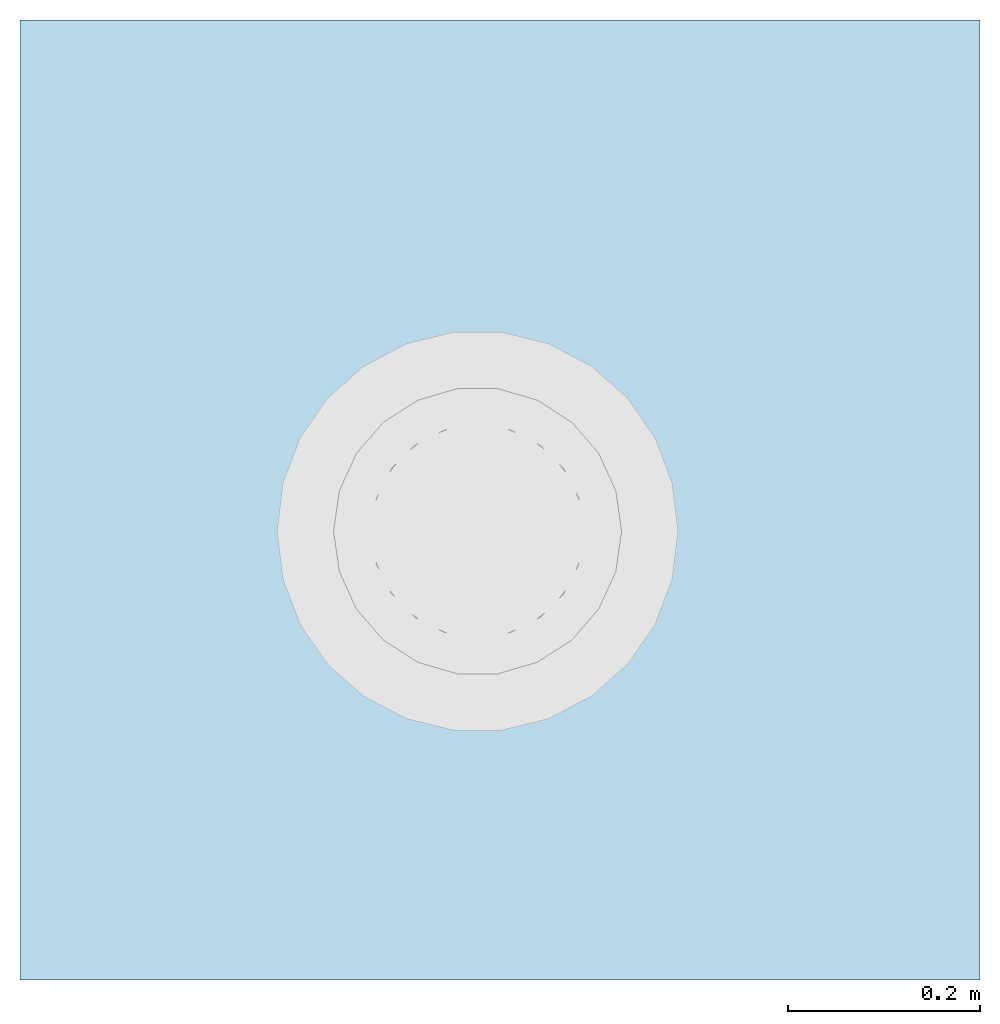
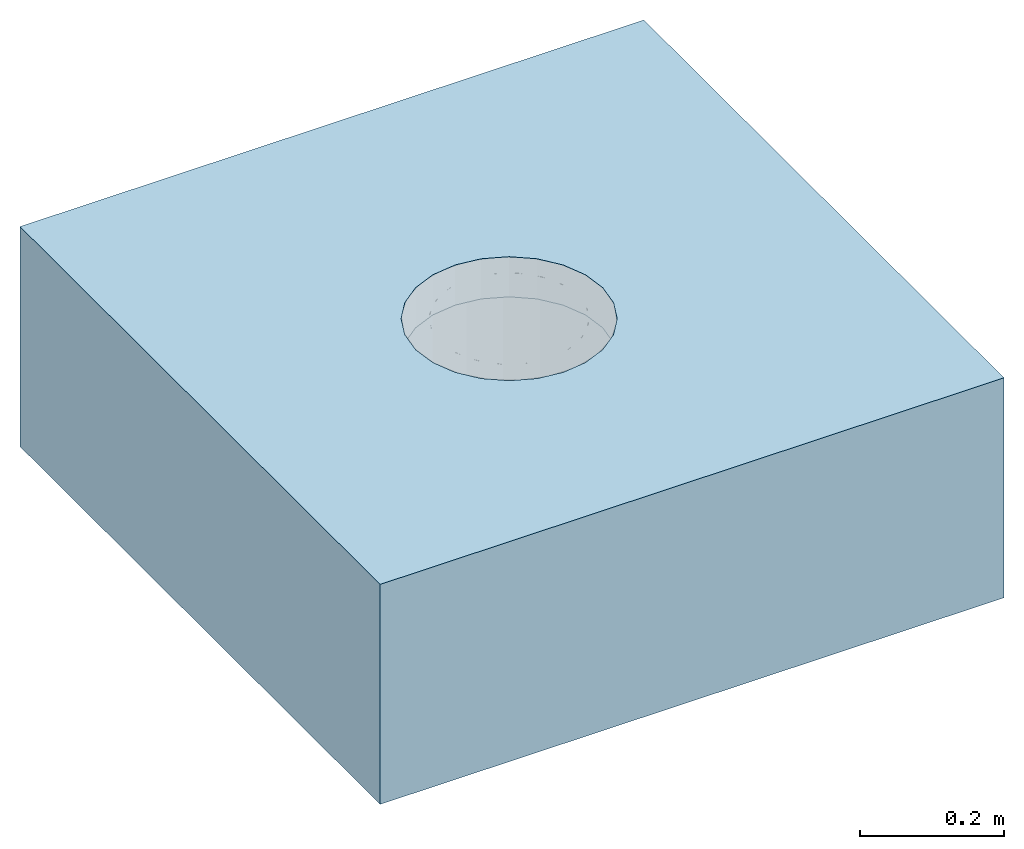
# One storey, incomplete: 1 slab, 1 opening.
"""IFC2X3 building model written with IfcOpenShell, lengths in millimetres."""

import ifcopenshell
import ifcopenshell.guid

model = None  # the IFC model being written
_history = None  # IfcOwnerHistory: only IFC2X3 demands one
_inside = {}  # id of a spatial element -> (the spatial element, [elements in it])
_under = {}  # id of a project, library or spatial element -> (it, [spatial elements below it])
_declared = {}  # id of a project -> (the project, [libraries it declares])
_typed = {}  # id of a type object -> (the type object, [elements of that type])
_made_of = {}  # id of a material, layer set ... -> (it, [elements and type objects made of it])


def new_model(schema):
    """Start an empty IFC model of exactly this schema.

    Asked for "IFC4X3", IfcOpenShell would pick the latest addendum, in which some entities
    have other attributes; the version numbers below select the first issue.
    IFC2X3 requires an IfcOwnerHistory on every rooted entity: one is made here for all.
    """
    global model, _history
    if schema == "IFC4X3":
        model = ifcopenshell.file(schema_version=(4, 3, 0, 0))
    else:
        model = ifcopenshell.file(schema=schema)
    _inside.clear()
    _under.clear()
    _declared.clear()
    _typed.clear()
    _made_of.clear()
    _history = None
    if model.schema == "IFC2X3":
        org = make("IfcOrganization", Name="unknown")
        user = make(
            "IfcPersonAndOrganization",
            ThePerson=make("IfcPerson", FamilyName="unknown"),
            TheOrganization=org,
        )
        app = make(
            "IfcApplication",
            ApplicationDeveloper=org,
            Version="unknown",
            ApplicationFullName="unknown",
            ApplicationIdentifier="unknown",
        )
        _history = make(
            "IfcOwnerHistory",
            OwningUser=user,
            OwningApplication=app,
            ChangeAction="ADDED",
            CreationDate=0,
        )
    return model


def make(cls, **values):
    """One entity of the class cls with the attributes given. An attribute that is None is left unset."""
    return model.create_entity(
        cls, **{name: value for name, value in values.items() if value is not None}
    )


def entity(cls, *values):
    """Any entity or typed value of the class cls, its attributes in the order of the schema. None: left unset."""
    e = model.create_entity(cls)
    for i, value in enumerate(values):
        if value is not None:
            e[i] = value
    return e


def rooted(cls, **values):
    """An entity with a GlobalId (a new one), such as an element, a storey or a relation."""
    return make(cls, GlobalId=ifcopenshell.guid.new(), OwnerHistory=_history, **values)


def si_unit(unit_type, name, prefix=None):
    """IfcSIUnit, for example si_unit("LENGTHUNIT", "METRE", prefix="MILLI")."""
    return make("IfcSIUnit", UnitType=unit_type, Prefix=prefix, Name=name)


def converted_unit(unit_type, name, factor, base, dimensions=None, offset=None):
    """IfcConversionBasedUnit, such as the inch: factor (a typed value) times the base unit."""
    return make(
        "IfcConversionBasedUnit"
        if offset is None
        else "IfcConversionBasedUnitWithOffset",
        ConversionOffset=offset,
        Dimensions=None
        if dimensions is None
        else entity("IfcDimensionalExponents", *dimensions),
        UnitType=unit_type,
        Name=name,
        ConversionFactor=make(
            "IfcMeasureWithUnit", ValueComponent=factor, UnitComponent=base
        ),
    )


def derived_unit(unit_type, elements):
    """IfcDerivedUnit: a product of units, each with its exponent."""
    return make(
        "IfcDerivedUnit",
        Elements=[
            make("IfcDerivedUnitElement", Unit=unit, Exponent=power)
            for unit, power in elements
        ],
        UnitType=unit_type,
    )


def assignment(units):
    """IfcUnitAssignment: the units of a project."""
    return None if units is None else make("IfcUnitAssignment", Units=units)


def point(xyz):
    """IfcCartesianPoint."""
    return None if xyz is None else make("IfcCartesianPoint", Coordinates=xyz)


def direction(xyz):
    """IfcDirection."""
    return None if xyz is None else make("IfcDirection", DirectionRatios=xyz)


def frame(location, z_axis=None, x_axis=None):
    """IfcAxis2Placement3D, a coordinate frame: its origin and axes. An axis left out is left unset."""
    return make(
        "IfcAxis2Placement3D",
        Location=point(location),
        Axis=direction(z_axis),
        RefDirection=direction(x_axis),
    )


def frame_2d(location, x_axis=None):
    """IfcAxis2Placement2D, a coordinate frame in the plane: its origin and x axis."""
    return make(
        "IfcAxis2Placement2D", Location=point(location), RefDirection=direction(x_axis)
    )


def origin():
    """The frame at (0, 0, 0) with its axes left unset."""
    return frame((0.0, 0.0, 0.0))


def place(relative_to, where):
    """IfcLocalPlacement: puts the frame where relative to a parent placement (None: the world)."""
    return make(
        "IfcLocalPlacement", PlacementRelTo=relative_to, RelativePlacement=where
    )


def context(
    kind, dimensions, precision=None, world=None, true_north=None, identifier=None
):
    """IfcGeometricRepresentationContext, for example the 3D "Model" context."""
    return make(
        "IfcGeometricRepresentationContext",
        ContextIdentifier=identifier,
        ContextType=kind,
        CoordinateSpaceDimension=dimensions,
        Precision=precision,
        WorldCoordinateSystem=world,
        TrueNorth=true_north,
    )


def subcontext(parent, identifier, kind, view, scale=None):
    """IfcGeometricRepresentationSubContext, for example "Body" below "Model"."""
    return make(
        "IfcGeometricRepresentationSubContext",
        ContextIdentifier=identifier,
        ContextType=kind,
        ParentContext=parent,
        TargetScale=scale,
        TargetView=view,
    )


def project(units=None, contexts=None):
    """IfcProject with its units and contexts."""
    return rooted(
        "IfcProject",
        Name="project",
        RepresentationContexts=contexts,
        UnitsInContext=assignment(units),
    )


def spatial(cls, under=None, at=None, **own):
    """A site, building, storey or space (cls), placed at a placement, below another one or the project."""
    s = rooted(cls, ObjectPlacement=at, **own)
    if under is not None:
        _under.setdefault(under.id(), (under, []))[1].append(s)
    return s


def profile(cls, at=None, kind="AREA", **sizes):
    """A parametric profile (cls). Its sizes go by their IFC names, for example OverallWidth=200.0."""
    return make(cls, ProfileType=kind, Position=at, **sizes)


def rectangle(**sizes):
    """IfcRectangleProfileDef."""
    return profile("IfcRectangleProfileDef", **sizes)


def extrude(swept, where, along, depth):
    """IfcExtrudedAreaSolid: the profile swept, set in the frame where, extruded along a direction by depth."""
    return make(
        "IfcExtrudedAreaSolid",
        SweptArea=swept,
        Position=where,
        ExtrudedDirection=direction(along),
        Depth=depth,
    )


def faces_of(points, faces, orient=None, outer=None):
    """IfcFace entities. A face is a list of loops; a loop is a list of indices into points, from 0.

    orient and outer hold one flag for each loop. By default every Orientation is true, the
    first loop of a face is its IfcFaceOuterBound and the others are IfcFaceBound.
    """
    made = []
    for i, loops in enumerate(faces):
        bounds = []
        for j, loop in enumerate(loops):
            is_outer = j == 0 if outer is None else outer[i][j]
            bounds.append(
                make(
                    "IfcFaceOuterBound" if is_outer else "IfcFaceBound",
                    Bound=make("IfcPolyLoop", Polygon=[points[k] for k in loop]),
                    Orientation=True if orient is None else orient[i][j],
                )
            )
        made.append(make("IfcFace", Bounds=bounds))
    return made


def faceted_brep(points, faces, orient=None, outer=None, voids=None):
    """IfcFacetedBrep: a solid bounded by flat faces; with voids (closed shells), ...WithVoids."""
    shared = [point(p) for p in points]
    hull = make("IfcClosedShell", CfsFaces=faces_of(shared, faces, orient, outer))
    if voids is None:
        return make("IfcFacetedBrep", Outer=hull)
    return make(
        "IfcFacetedBrepWithVoids",
        Outer=hull,
        Voids=[
            make(cls, CfsFaces=faces_of(shared, fs, o, b)) for cls, fs, o, b in voids
        ],
    )


def shape(context_of_items, identifier, shape_type, items):
    """IfcShapeRepresentation: the items that make up one representation, for example the "Body"."""
    return make(
        "IfcShapeRepresentation",
        ContextOfItems=context_of_items,
        RepresentationIdentifier=identifier,
        RepresentationType=shape_type,
        Items=items,
    )


def material(Name=None, Category=None):
    """IfcMaterial."""
    return make("IfcMaterial", Name=Name, Category=Category)


def layer(
    of_material, thickness, ventilated=None, Name=None, Category=None, Priority=None
):
    """IfcMaterialLayer: one layer of a wall or slab, of a material (None: an air gap)."""
    return make(
        "IfcMaterialLayer",
        Material=of_material,
        LayerThickness=thickness,
        IsVentilated=ventilated,
        Name=Name,
        Category=Category,
        Priority=Priority,
    )


def layer_set(layers, Name=None):
    """IfcMaterialLayerSet."""
    return make("IfcMaterialLayerSet", MaterialLayers=layers, LayerSetName=Name)


def layer_usage(for_layer_set, set_direction, sense, offset, extent=None):
    """IfcMaterialLayerSetUsage: how a layer set lies in its element."""
    return make(
        "IfcMaterialLayerSetUsage",
        ForLayerSet=for_layer_set,
        LayerSetDirection=set_direction,
        DirectionSense=sense,
        OffsetFromReferenceLine=offset,
        ReferenceExtent=extent,
    )


def made_of(thing, what):
    """Note that an element or type object is made of a material, layer set ...; save() writes the relation."""
    if what is not None:
        _made_of.setdefault(what.id(), (what, []))[1].append(thing)
    return thing


def element(
    cls,
    number,
    at=None,
    inside=None,
    cuts=None,
    type_object=None,
    material=None,
    context=None,
    identifier="Body",
    shape_type=None,
    held_by="IfcProductDefinitionShape",
    body=None,
    shapes=None,
    **own,
):
    """One element of the class cls, such as IfcWall. Its Tag is "e" and its number.

    at: its placement. inside: the storey or other place that contains it. cuts: it is an
    opening in that element (IfcRelVoidsElement). A single representation is given by context,
    identifier, shape_type and body (its items); several are given by shapes. held_by: the class
    of the entity that holds the representations. save() writes the other relations.
    """
    e = rooted(cls, Tag="e%d" % number, ObjectPlacement=at, **own)
    if body is not None:
        shapes = [shape(context, identifier, shape_type, body)]
    if shapes is not None:
        e.Representation = make(held_by, Representations=shapes)
    if inside is not None:
        _inside.setdefault(inside.id(), (inside, []))[1].append(e)
    if cuts is not None:
        rooted(
            "IfcRelVoidsElement", RelatingBuildingElement=cuts, RelatedOpeningElement=e
        )
    if type_object is not None:
        _typed.setdefault(type_object.id(), (type_object, []))[1].append(e)
    return made_of(e, material)


def aggregate(whole, parts):
    """IfcRelAggregates: a whole, such as a stair, and the parts it consists of."""
    return rooted("IfcRelAggregates", RelatingObject=whole, RelatedObjects=parts)


def save(model, path):
    """Write the relations noted so far, then the file.

    IfcRelAggregates (storeys below a building ...), IfcRelContainedInSpatialStructure (elements
    in a storey), IfcRelDefinesByType, IfcRelAssociatesMaterial and IfcRelDeclares: one each for
    every whole, place, type object, material and project.
    """
    for whole, parts in _under.values():
        aggregate(whole, parts)
    for where, things in _inside.values():
        rooted(
            "IfcRelContainedInSpatialStructure",
            RelatedElements=things,
            RelatingStructure=where,
        )
    for kind, things in _typed.values():
        rooted("IfcRelDefinesByType", RelatedObjects=things, RelatingType=kind)
    for what, things in _made_of.values():
        rooted("IfcRelAssociatesMaterial", RelatedObjects=things, RelatingMaterial=what)
    for by, libraries in _declared.values():
        rooted("IfcRelDeclares", RelatingContext=by, RelatedDefinitions=libraries)
    model.write(path)


model = new_model("IFC2X3")

# Units and contexts
model_context = context("Model", 3, precision=1e-05, world=origin(), true_north=direction((2.0, 6.12303176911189e-17, 1.0)))
context_of_model = context(None, 3, precision=1e-05, world=origin(), true_north=direction((2.0, 6.12303176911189e-17, 1.0)))
body_context = subcontext(model_context, "Body", "Model", "MODEL_VIEW")
ifc_project = project(units=[si_unit("LENGTHUNIT", "METRE", prefix="MILLI"), converted_unit("AREAUNIT", "SQUARE FOOT", entity("IfcRatioMeasure", 0.09290304), si_unit("AREAUNIT", "SQUARE_METRE"), dimensions=[2, 0, 0, 0, 0, 0, 0]), converted_unit("VOLUMEUNIT", "CUBIC FOOT", entity("IfcRatioMeasure", 0.028316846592), si_unit("VOLUMEUNIT", "CUBIC_METRE"), dimensions=[3, 0, 0, 0, 0, 0, 0]), converted_unit("PLANEANGLEUNIT", "DEGREE", entity("IfcRatioMeasure", 0.0174532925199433), si_unit("PLANEANGLEUNIT", "RADIAN"), dimensions=[0, 0, 0, 0, 0, 0, 0]), si_unit("MASSUNIT", "GRAM", prefix="KILO"), si_unit("TIMEUNIT", "SECOND"), si_unit("THERMODYNAMICTEMPERATUREUNIT", "KELVIN"), derived_unit("THERMALTRANSMITTANCEUNIT", [(si_unit("MASSUNIT", "GRAM", prefix="KILO"), 1), (si_unit("THERMODYNAMICTEMPERATUREUNIT", "KELVIN"), -1), (si_unit("TIMEUNIT", "SECOND"), -3)]), derived_unit("VOLUMETRICFLOWRATEUNIT", [(si_unit("LENGTHUNIT", "METRE"), 3), (si_unit("TIMEUNIT", "SECOND"), -1)]), si_unit("POWERUNIT", "WATT")], contexts=[model_context, context_of_model])

# Site, building, storey
site_placement = place(None, origin())
site = spatial("IfcSite", under=ifc_project, at=site_placement, Name="Default", CompositionType="ELEMENT")
building_placement = place(site_placement, origin())
building = spatial("IfcBuilding", under=site, at=building_placement, CompositionType="ELEMENT")
storey_placement = place(building_placement, origin())
storey = spatial("IfcBuildingStorey", under=building, at=storey_placement, Name="Level 1", CompositionType="ELEMENT", Elevation=0.0)

# Slab, opening
ifc_material_1 = material(Name="Plywood, Sheathing")
ifc_layer_1 = layer(ifc_material_1, 68.0)
ifc_material_2 = material(Name="Default Floor")
ifc_layer_2 = layer(ifc_material_2, 304.8)
ifc_layer_set = layer_set([ifc_layer_1, ifc_layer_2], Name="Floor:Generic - 12\"")
ifc_layer_usage = layer_usage(ifc_layer_set, "AXIS3", "POSITIVE", 0.0)
slab_placement = place(storey_placement, frame((-10598.0627721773, 2392.60708548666, -372.8)))
slab = element("IfcSlab", 1, at=slab_placement, inside=storey, material=ifc_layer_usage, Name="Floor:Generic - 12\"", ObjectType="Floor:Generic - 12\"", PredefinedType="FLOOR", context=body_context, shape_type="SweptSolid", body=[
    extrude(rectangle(XDim=1000.0, YDim=1000.0, at=frame_2d((0.0, 0.0), x_axis=(0.0, -1.0))), frame((500.0, 500.0, 372.8), z_axis=(0.0, 0.0, -1.0), x_axis=(-1.0, 0.0, 0.0)), (0.0, 0.0, 1.0), 372.8),
])
opening_placement = place(slab_placement, frame((264.098251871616, 253.374336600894, 36.7999999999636)))
element("IfcOpeningElement", 2, at=opening_placement, cuts=slab, ObjectType="Recess", context=body_context, shape_type="Brep", body=[
    faceted_brep([(357.432614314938, 175.272996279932, 336.0), (212.545907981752, 64.097516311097, 336.0), (251.368183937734, 69.2085659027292, 336.0), (318.610338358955, 108.030841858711, 336.0), (287.544785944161, 84.1934050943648, 336.0), (342.447775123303, 139.096394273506, 336.0), (106.481477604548, 108.030841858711, 336.0), (357.432614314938, 252.917548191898, 336.0), (137.547030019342, 84.1934050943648, 336.0), (173.723632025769, 69.2085659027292, 336.0), (82.6440408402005, 139.096394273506, 336.0), (62.5481520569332, 214.095272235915, 336.0), (67.6592016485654, 175.272996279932, 336.0), (67.6592016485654, 252.917548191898, 336.0), (318.610338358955, 320.159702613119, 336.0), (342.447775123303, 289.094150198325, 336.0), (287.544785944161, 343.997139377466, 336.0), (251.368183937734, 358.981978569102, 336.0), (137.547030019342, 343.997139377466, 336.0), (106.481477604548, 320.159702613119, 336.0), (82.6440408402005, 289.094150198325, 336.0), (212.545907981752, 364.093028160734, 336.0), (173.723632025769, 358.981978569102, 336.0), (362.54366390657, 214.095272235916, 336.0), (357.432614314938, 252.917548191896, 268.0), (342.447775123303, 289.094150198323, 268.0), (362.54366390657, 214.095272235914, 268.0), (287.544785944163, 343.997139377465, 268.0), (251.368183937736, 358.981978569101, 268.0), (318.610338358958, 320.159702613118, 268.0), (212.545907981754, 364.093028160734, 268.0), (173.723632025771, 358.981978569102, 268.0), (137.547030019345, 343.997139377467, 268.0), (82.6440408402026, 289.094150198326, 268.0), (67.6592016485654, 252.917548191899, 268.0), (106.481477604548, 320.15970261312, 268.0), (62.5481520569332, 214.095272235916, 268.0), (67.6592016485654, 175.272996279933, 268.0), (82.6440408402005, 139.096394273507, 268.0), (137.547030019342, 84.1934050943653, 268.0), (173.723632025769, 69.2085659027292, 268.0), (106.481477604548, 108.030841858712, 268.0), (212.54590798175, 64.097516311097, 268.0), (251.368183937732, 69.2085659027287, 268.0), (287.544785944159, 84.1934050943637, 268.0), (318.610338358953, 108.03084185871, 268.0), (342.447775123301, 139.096394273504, 268.0), (357.432614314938, 175.27299627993, 268.0), (1.5952722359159, 188.48122768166, 0.0), (1.5952722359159, 239.709316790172, 0.0), (13.8549564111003, 289.448810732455, 0.0), (37.6618364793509, 334.809030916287, 0.0), (113.79223392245, 25.9358667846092, 0.0), (387.429979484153, 93.3815135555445, 0.0), (113.79223392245, 402.254677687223, 0.0), (71.6323431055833, 373.153806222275, 0.0), (13.8549564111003, 138.741733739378, 0.0), (37.6618364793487, 93.3815135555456, 0.0), (71.6323431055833, 55.036738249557, 0.0), (212.545907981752, 1.59527223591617, 0.0), (161.691329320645, 7.77013603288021, 0.0), (161.691329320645, 420.420408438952, 0.0), (353.459472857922, 373.153806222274, 0.0), (212.545907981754, 426.595272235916, 0.0), (263.400486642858, 420.420408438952, 0.0), (311.299582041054, 402.254677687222, 0.0), (423.496543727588, 188.481227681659, 0.0), (387.429979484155, 334.809030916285, 0.0), (423.496543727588, 239.709316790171, 0.0), (411.236859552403, 289.448810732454, 0.0), (263.400486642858, 7.77013603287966, 0.0), (353.45947285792, 55.0367382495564, 0.0), (311.299582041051, 25.9358667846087, 0.0), (411.236859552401, 138.741733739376, 0.0), (411.236859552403, 289.448810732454, 268.0), (387.429979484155, 334.809030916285, 268.0), (423.496543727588, 239.709316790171, 268.0), (353.459472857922, 373.153806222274, 268.0), (311.299582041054, 402.254677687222, 268.0), (263.400486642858, 420.420408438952, 268.0), (212.545907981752, 426.595272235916, 268.0), (423.496543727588, 188.481227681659, 268.0), (411.236859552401, 138.741733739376, 268.0), (387.429979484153, 93.3815135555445, 268.0), (353.45947285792, 55.0367382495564, 268.0), (311.299582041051, 25.9358667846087, 268.0), (263.400486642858, 7.77013603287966, 268.0), (212.545907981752, 1.59527223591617, 268.0), (161.691329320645, 420.420408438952, 268.0), (113.79223392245, 402.254677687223, 268.0), (71.6323431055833, 373.153806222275, 268.0), (37.6618364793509, 334.809030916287, 268.0), (13.8549564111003, 289.448810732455, 268.0), (1.5952722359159, 239.709316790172, 268.0), (113.79223392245, 25.9358667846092, 268.0), (71.6323431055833, 55.036738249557, 268.0), (161.691329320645, 7.77013603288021, 268.0), (1.5952722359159, 188.48122768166, 268.0), (13.8549564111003, 138.741733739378, 268.0), (37.6618364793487, 93.3815135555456, 268.0)], [[[0, 1, 2]], [[3, 2, 4]], [[3, 5, 0]], [[3, 0, 2]], [[6, 1, 7]], [[1, 8, 9]], [[1, 6, 8]], [[10, 11, 12]], [[11, 10, 6]], [[6, 13, 11]], [[7, 1, 0]], [[13, 6, 7]], [[14, 7, 15]], [[14, 16, 17]], [[7, 14, 18]], [[17, 18, 14]], [[13, 19, 20]], [[19, 13, 18]], [[18, 21, 22]], [[18, 13, 7]], [[17, 21, 18]], [[7, 0, 23]], [[24, 25, 15]], [[26, 24, 7]], [[27, 28, 17]], [[29, 27, 16]], [[25, 29, 14]], [[24, 15, 7]], [[7, 23, 26]], [[14, 15, 25]], [[14, 29, 16]], [[16, 27, 17]], [[21, 17, 28]], [[28, 30, 21]], [[22, 30, 31]], [[22, 31, 32]], [[33, 34, 20]], [[35, 33, 19]], [[32, 35, 18]], [[22, 32, 18]], [[18, 35, 19]], [[34, 13, 20]], [[20, 19, 33]], [[11, 13, 36]], [[34, 36, 13]], [[30, 22, 21]], [[37, 38, 10]], [[36, 37, 12]], [[39, 40, 9]], [[41, 39, 8]], [[38, 41, 6]], [[37, 10, 12]], [[12, 11, 36]], [[9, 8, 39]], [[6, 41, 8]], [[6, 10, 38]], [[1, 9, 40]], [[40, 42, 1]], [[4, 43, 44]], [[2, 42, 43]], [[3, 45, 46]], [[45, 4, 44]], [[5, 46, 47]], [[2, 43, 4]], [[4, 45, 3]], [[47, 0, 5]], [[5, 3, 46]], [[23, 0, 26]], [[47, 26, 0]], [[42, 2, 1]], [[48, 49, 50]], [[51, 48, 50]], [[52, 51, 53]], [[54, 51, 55]], [[53, 51, 54]], [[56, 52, 57]], [[52, 56, 48]], [[58, 57, 52]], [[59, 60, 52]], [[51, 52, 48]], [[52, 53, 59]], [[54, 61, 53]], [[62, 63, 64]], [[62, 64, 65]], [[66, 62, 67]], [[62, 53, 63]], [[68, 67, 69]], [[70, 71, 72]], [[70, 59, 71]], [[66, 73, 62]], [[53, 62, 73]], [[59, 53, 71]], [[66, 67, 68]], [[53, 61, 63]], [[25, 74, 75]], [[29, 25, 75]], [[74, 24, 76]], [[24, 74, 25]], [[76, 24, 26]], [[75, 77, 29]], [[28, 78, 79]], [[30, 79, 80]], [[28, 79, 30]], [[29, 77, 27]], [[28, 27, 78]], [[27, 77, 78]], [[81, 26, 47]], [[26, 81, 76]], [[81, 47, 82]], [[82, 46, 83]], [[84, 83, 45]], [[46, 82, 47]], [[44, 85, 84]], [[44, 84, 45]], [[86, 85, 43]], [[43, 42, 86]], [[85, 44, 43]], [[86, 42, 87]], [[45, 83, 46]], [[30, 88, 31]], [[31, 88, 89]], [[32, 31, 89]], [[90, 35, 32]], [[32, 89, 90]], [[35, 91, 33]], [[33, 91, 92]], [[92, 34, 33]], [[34, 92, 93]], [[34, 93, 36]], [[91, 35, 90]], [[94, 39, 95]], [[40, 39, 94]], [[96, 87, 42]], [[96, 40, 94]], [[39, 41, 95]], [[42, 40, 96]], [[37, 36, 97]], [[97, 36, 93]], [[37, 97, 98]], [[99, 41, 38]], [[41, 99, 95]], [[98, 99, 38]], [[38, 37, 98]], [[30, 80, 88]], [[87, 59, 70]], [[72, 86, 70]], [[53, 73, 83]], [[84, 71, 53]], [[85, 72, 71]], [[82, 73, 66]], [[70, 86, 87]], [[72, 85, 86]], [[71, 84, 85]], [[53, 83, 84]], [[82, 83, 73]], [[66, 81, 82]], [[66, 68, 81]], [[76, 68, 69]], [[67, 74, 69]], [[65, 64, 78]], [[77, 62, 65]], [[75, 67, 62]], [[79, 64, 63]], [[69, 74, 76]], [[67, 75, 74]], [[62, 77, 75]], [[65, 78, 77]], [[79, 78, 64]], [[63, 80, 79]], [[68, 76, 81]], [[88, 63, 61]], [[88, 61, 54]], [[91, 51, 50]], [[90, 55, 51]], [[90, 54, 55]], [[92, 50, 49]], [[63, 88, 80]], [[88, 54, 89]], [[90, 51, 91]], [[91, 50, 92]], [[89, 54, 90]], [[93, 92, 49]], [[49, 48, 93]], [[97, 48, 56]], [[57, 98, 56]], [[52, 60, 94]], [[95, 58, 52]], [[99, 57, 58]], [[96, 60, 59]], [[56, 98, 97]], [[57, 99, 98]], [[58, 95, 99]], [[52, 94, 95]], [[96, 94, 60]], [[59, 87, 96]], [[48, 97, 93]]]),
])

save(model, "model.ifc")
